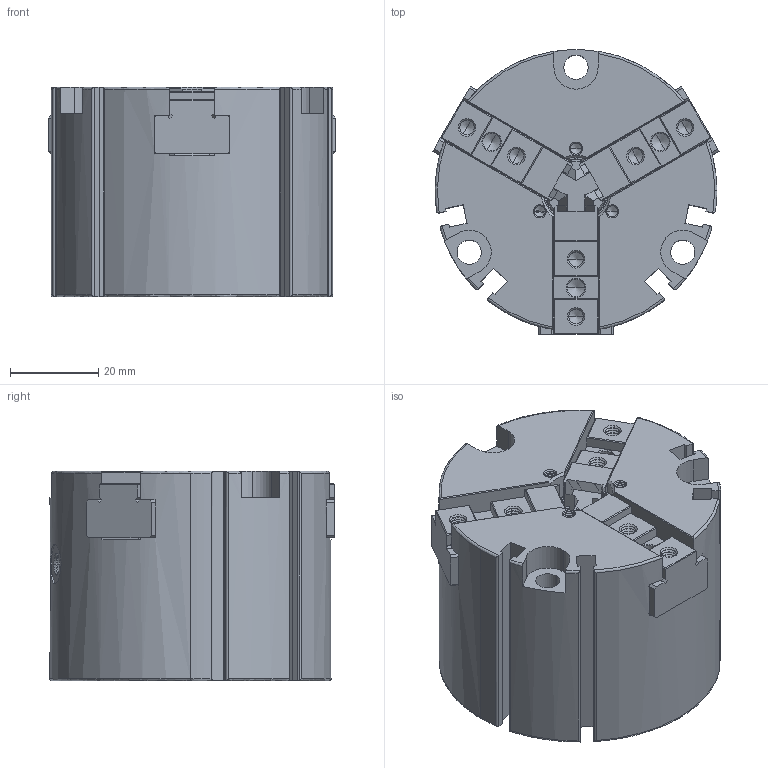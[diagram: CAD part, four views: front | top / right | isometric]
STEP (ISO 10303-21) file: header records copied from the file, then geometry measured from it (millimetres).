
FILE_DESCRIPTION (( 'STEP AP214' ), '1' );
FILE_NAME ('MCHG-64.STEP', '2013-10-22T20:50:02', ( 'user' ), ( '' ), 'SwSTEP 2.0', 'SolidWorks 2009', '' );
FILE_SCHEMA (( 'AUTOMOTIVE_DESIGN' ));
Length unit declared in the file: millimetre
Products named in the file (5): CG64003_預設; CG64016_預設; CG64004_預設; 002_預設; MCHG-64
Assembly tree (6 placements, depth 2):
  MCHG-64
    CG64003_預設
    002_預設
    CG64016_預設  x3
    CG64004_預設
Bounding box: 65.01 x 64.63 x 47.6 mm (x, y, z)
Volume: 107722.6 mm3; surface area: 44899 mm2
Topology: 6 solids, 6 shells, 1044 faces, 2510 edges, 1475 vertices
Faces by surface type: cone 595, plane 327, cylinder 101, bspline 21
Entity records: 21262 total; most frequent: CARTESIAN_POINT 4601, DIRECTION 3610, ORIENTED_EDGE 3380, EDGE_CURVE 1690, AXIS2_PLACEMENT_3D 1331, VERTEX_POINT 1006, LINE 948, VECTOR 948
